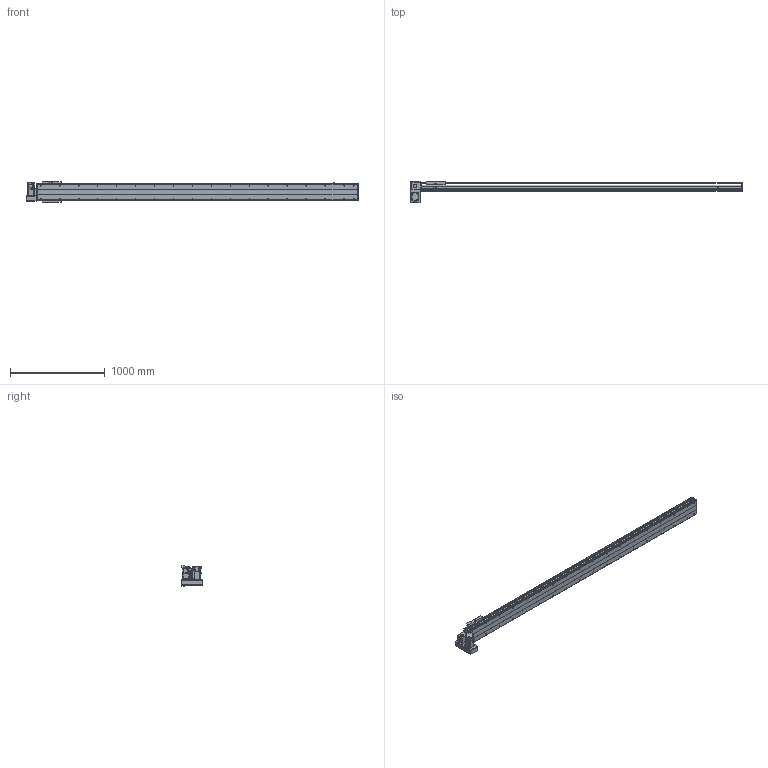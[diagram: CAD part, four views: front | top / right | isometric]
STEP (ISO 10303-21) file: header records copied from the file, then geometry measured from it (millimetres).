
FILE_DESCRIPTION(/* description */ ('STEP AP214'),/* implementation_level */ '2;1');
FILE_NAME(/* name */ 'PBS200-P40-S3000-LD-T75-C1-N(0)',/* time_stamp */ '2022-06-11T08:47:25+02:00',/* author */ ('License CC BY-ND 4.0'),/* organization */ ('CADENAS'),/* preprocessor_version */ 'ST-DEVELOPER v18.102',/* originating_system */ 'PARTsolutions',/* authorisation */ ' ');
FILE_SCHEMA (('AUTOMOTIVE_DESIGN {1 0 10303 214 3 1 1}'));
Length unit declared in the file: millimetre
Products named in the file (7): PBS200-P40-S3000-LD-T75-C1-N(0); PBS200_sensor; PBS200_plant; PBS200_sliser; T75-p1; PBS200T-LD_motors; PBS200-S3000()_body
Assembly tree (8 placements, depth 2):
  PBS200-P40-S3000-LD-T75-C1-N(0)
    PBS200_sensor  x3
    PBS200_plant
    PBS200_sliser
    T75-p1
    PBS200T-LD_motors
    PBS200-S3000()_body
Bounding box: 3500 x 230 x 221 mm (x, y, z)
Volume: 23726001.4 mm3; surface area: 3788692.4 mm2
Topology: 8 solids, 8 shells, 980 faces, 2474 edges, 1608 vertices
Faces by surface type: plane 594, cylinder 318, cone 68
Full cylindrical faces by diameter (mm): 2.459 x6, 3.242 x4, 4.5 x6, 4.917 x4, 5 x6, 6 x7, 6.6 x8, 6.647 x40, 8 x6, 10 x4, 12 x8, 38 x2, 40 x1, 70 x1
Entity records: 25781 total; most frequent: DIRECTION 4567, CARTESIAN_POINT 4372, ORIENTED_EDGE 4102, EDGE_CURVE 2051, AXIS2_PLACEMENT_3D 1627, VERTEX_POINT 1432, LINE 1313, VECTOR 1313
